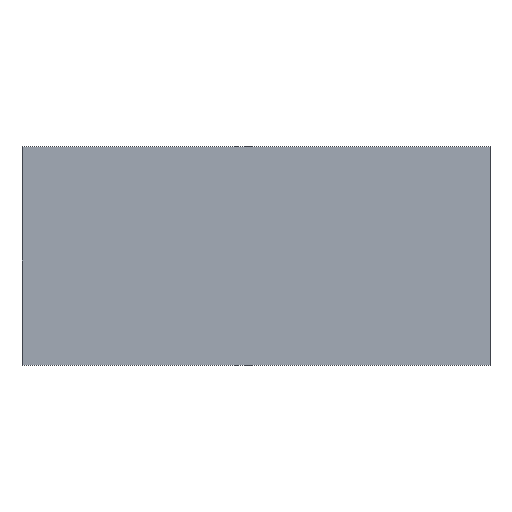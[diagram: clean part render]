
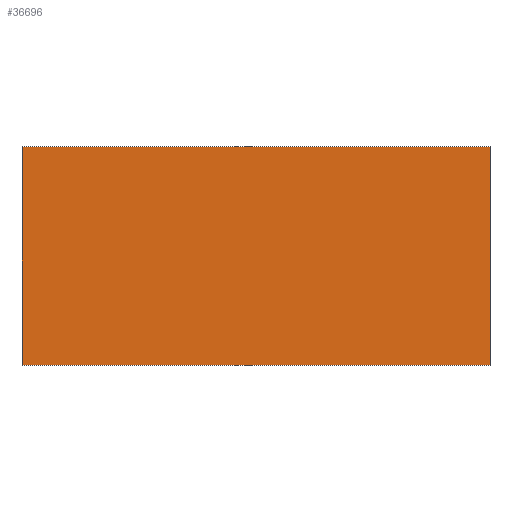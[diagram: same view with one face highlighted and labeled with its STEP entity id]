
A CAD part, top view. The second image highlights one B-rep face of the part: STEP entity #36696.
In plain terms, the highlighted planar face has unit normal (0, 0, 1).
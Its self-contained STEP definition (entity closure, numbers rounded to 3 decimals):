
#32 = VERTEX_POINT('',#33);
#33 = CARTESIAN_POINT('',(0.,70.,3.));
#39 = EDGE_CURVE('',#32,#40,#42,.T.);
#40 = VERTEX_POINT('',#41);
#41 = CARTESIAN_POINT('',(0.,0.,3.));
#42 = LINE('',#43,#44);
#43 = CARTESIAN_POINT('',(0.,70.,3.));
#44 = VECTOR('',#45,1.);
#45 = DIRECTION('',(0.,-1.,0.));
#36679 = VERTEX_POINT('',#36680);
#36680 = CARTESIAN_POINT('',(150.,0.,3.));
#36686 = EDGE_CURVE('',#40,#36679,#36687,.T.);
#36687 = LINE('',#36688,#36689);
#36688 = CARTESIAN_POINT('',(0.,0.,3.));
#36689 = VECTOR('',#36690,1.);
#36690 = DIRECTION('',(1.,0.,0.));
#36696 = ADVANCED_FACE('',(#36697),#36715,.T.);
#36697 = FACE_BOUND('',#36698,.T.);
#36698 = EDGE_LOOP('',(#36699,#36707,#36708,#36709));
#36699 = ORIENTED_EDGE('',*,*,#36700,.F.);
#36700 = EDGE_CURVE('',#32,#36701,#36703,.T.);
#36701 = VERTEX_POINT('',#36702);
#36702 = CARTESIAN_POINT('',(150.,70.,3.));
#36703 = LINE('',#36704,#36705);
#36704 = CARTESIAN_POINT('',(0.,70.,3.));
#36705 = VECTOR('',#36706,1.);
#36706 = DIRECTION('',(1.,0.,0.));
#36707 = ORIENTED_EDGE('',*,*,#39,.T.);
#36708 = ORIENTED_EDGE('',*,*,#36686,.T.);
#36709 = ORIENTED_EDGE('',*,*,#36710,.F.);
#36710 = EDGE_CURVE('',#36701,#36679,#36711,.T.);
#36711 = LINE('',#36712,#36713);
#36712 = CARTESIAN_POINT('',(150.,70.,3.));
#36713 = VECTOR('',#36714,1.);
#36714 = DIRECTION('',(0.,-1.,0.));
#36715 = PLANE('',#36716);
#36716 = AXIS2_PLACEMENT_3D('',#36717,#36718,#36719);
#36717 = CARTESIAN_POINT('',(0.,70.,3.));
#36718 = DIRECTION('',(0.,0.,1.));
#36719 = DIRECTION('',(0.,-1.,0.));
